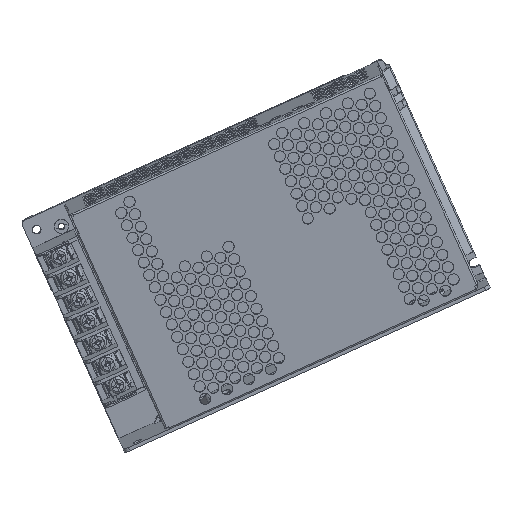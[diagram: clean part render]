
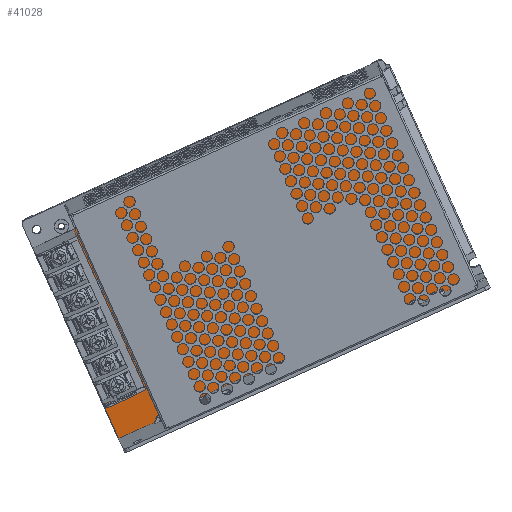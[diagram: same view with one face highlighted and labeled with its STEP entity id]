
A CAD part, top view. The second image highlights one B-rep face of the part: STEP entity #41028.
In plain terms, the highlighted planar face has unit normal (0.082, -0.181, 0.98) as drawn and (0, 0, 1) by its records, which use the part's own axes.
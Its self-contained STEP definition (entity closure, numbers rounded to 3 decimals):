
#40420=DIRECTION('',(1.,0.,0.));
#40421=VECTOR('',#40420,30.65);
#40422=CARTESIAN_POINT('',(0.5,0.,0.));
#40423=LINE('',#40422,#40421);
#40436=DIRECTION('',(1.,0.,0.));
#40437=VECTOR('',#40436,42.018);
#40438=CARTESIAN_POINT('',(33.641,1.5,0.));
#40439=LINE('',#40438,#40437);
#40452=DIRECTION('',(1.,0.,0.));
#40453=VECTOR('',#40452,56.841);
#40454=CARTESIAN_POINT('',(78.159,0.,0.));
#40455=LINE('',#40454,#40453);
#40472=DIRECTION('',(0.,1.,0.));
#40473=VECTOR('',#40472,1.);
#40474=CARTESIAN_POINT('',(135.5,0.5,0.));
#40475=LINE('',#40474,#40473);
#40476=DIRECTION('',(1.,0.,0.));
#40477=VECTOR('',#40476,6.);
#40478=CARTESIAN_POINT('',(135.5,1.5,0.));
#40479=LINE('',#40478,#40477);
#40480=DIRECTION('',(-0.707,-0.707,0.));
#40481=VECTOR('',#40480,0.707);
#40482=CARTESIAN_POINT('',(135.5,0.5,0.));
#40483=LINE('',#40482,#40481);
#40484=DIRECTION('',(-0.857,0.514,0.));
#40485=VECTOR('',#40484,2.915);
#40486=CARTESIAN_POINT('',(78.159,0.,0.));
#40487=LINE('',#40486,#40485);
#40488=DIRECTION('',(-0.857,-0.516,0.));
#40489=VECTOR('',#40488,2.908);
#40490=CARTESIAN_POINT('',(33.641,1.5,0.));
#40491=LINE('',#40490,#40489);
#40492=DIRECTION('',(-0.707,0.707,0.));
#40493=VECTOR('',#40492,0.707);
#40494=CARTESIAN_POINT('',(0.5,0.,0.));
#40495=LINE('',#40494,#40493);
#40496=DIRECTION('',(0.707,0.707,0.));
#40497=VECTOR('',#40496,0.707);
#40498=CARTESIAN_POINT('',(0.,57.2,0.));
#40499=LINE('',#40498,#40497);
#40500=DIRECTION('',(0.707,0.707,0.));
#40501=VECTOR('',#40500,0.707);
#40502=CARTESIAN_POINT('',(4.5,84.2,0.));
#40503=LINE('',#40502,#40501);
#40504=DIRECTION('',(0.707,0.707,0.));
#40505=VECTOR('',#40504,0.707);
#40506=CARTESIAN_POINT('',(28.9,89.9,0.));
#40507=LINE('',#40506,#40505);
#40508=DIRECTION('',(0.707,-0.707,0.));
#40509=VECTOR('',#40508,0.707);
#40510=CARTESIAN_POINT('',(144.4,90.4,0.));
#40511=LINE('',#40510,#40509);
#40512=DIRECTION('',(0.707,-0.707,0.));
#40513=VECTOR('',#40512,0.707);
#40514=CARTESIAN_POINT('',(152.5,88.5,0.));
#40515=LINE('',#40514,#40513);
#40516=DIRECTION('',(-0.707,-0.707,0.));
#40517=VECTOR('',#40516,0.707);
#40518=CARTESIAN_POINT('',(153.,0.5,0.));
#40519=LINE('',#40518,#40517);
#40520=DIRECTION('',(-0.707,0.707,0.));
#40521=VECTOR('',#40520,0.707);
#40522=CARTESIAN_POINT('',(142.,0.,0.));
#40523=LINE('',#40522,#40521);
#40528=DIRECTION('',(0.,-1.,0.));
#40529=VECTOR('',#40528,1.);
#40530=CARTESIAN_POINT('',(141.5,1.5,0.));
#40531=LINE('',#40530,#40529);
#40548=DIRECTION('',(1.,0.,0.));
#40549=VECTOR('',#40548,10.5);
#40550=CARTESIAN_POINT('',(142.,0.,0.));
#40551=LINE('',#40550,#40549);
#40564=DIRECTION('',(0.,1.,0.));
#40565=VECTOR('',#40564,87.5);
#40566=CARTESIAN_POINT('',(153.,0.5,0.));
#40567=LINE('',#40566,#40565);
#40580=DIRECTION('',(-1.,0.,0.));
#40581=VECTOR('',#40580,7.6);
#40582=CARTESIAN_POINT('',(152.5,88.5,0.));
#40583=LINE('',#40582,#40581);
#40592=DIRECTION('',(0.,1.,0.));
#40593=VECTOR('',#40592,1.4);
#40594=CARTESIAN_POINT('',(144.9,88.5,0.));
#40595=LINE('',#40594,#40593);
#40608=DIRECTION('',(-1.,0.,0.));
#40609=VECTOR('',#40608,115.);
#40610=CARTESIAN_POINT('',(144.4,90.4,0.));
#40611=LINE('',#40610,#40609);
#40624=DIRECTION('',(0.,-1.,0.));
#40625=VECTOR('',#40624,5.2);
#40626=CARTESIAN_POINT('',(28.9,89.9,0.));
#40627=LINE('',#40626,#40625);
#40636=DIRECTION('',(-1.,0.,0.));
#40637=VECTOR('',#40636,23.9);
#40638=CARTESIAN_POINT('',(28.9,84.7,0.));
#40639=LINE('',#40638,#40637);
#40652=DIRECTION('',(0.,-1.,0.));
#40653=VECTOR('',#40652,26.5);
#40654=CARTESIAN_POINT('',(4.5,84.2,0.));
#40655=LINE('',#40654,#40653);
#40664=DIRECTION('',(-1.,0.,0.));
#40665=VECTOR('',#40664,4.);
#40666=CARTESIAN_POINT('',(4.5,57.7,0.));
#40667=LINE('',#40666,#40665);
#40680=DIRECTION('',(0.,-1.,0.));
#40681=VECTOR('',#40680,56.7);
#40682=CARTESIAN_POINT('',(0.,57.2,0.));
#40683=LINE('',#40682,#40681);
#40733=CARTESIAN_POINT('',(0.5,0.,0.));
#40735=VERTEX_POINT('',#40733);
#40738=CARTESIAN_POINT('',(0.,0.5,0.));
#40739=VERTEX_POINT('',#40738);
#40741=CARTESIAN_POINT('',(31.15,0.,0.));
#40743=VERTEX_POINT('',#40741);
#40745=CARTESIAN_POINT('',(33.641,1.5,0.));
#40747=VERTEX_POINT('',#40745);
#40749=CARTESIAN_POINT('',(75.659,1.5,0.));
#40751=VERTEX_POINT('',#40749);
#40753=CARTESIAN_POINT('',(78.159,0.,0.));
#40755=VERTEX_POINT('',#40753);
#40757=CARTESIAN_POINT('',(135.,0.,0.));
#40759=VERTEX_POINT('',#40757);
#40761=CARTESIAN_POINT('',(135.5,0.5,0.));
#40763=VERTEX_POINT('',#40761);
#40765=CARTESIAN_POINT('',(141.5,0.5,0.));
#40767=VERTEX_POINT('',#40765);
#40769=CARTESIAN_POINT('',(142.,0.,0.));
#40771=VERTEX_POINT('',#40769);
#40773=CARTESIAN_POINT('',(152.5,0.,0.));
#40775=VERTEX_POINT('',#40773);
#40777=CARTESIAN_POINT('',(153.,0.5,0.));
#40779=VERTEX_POINT('',#40777);
#40781=CARTESIAN_POINT('',(153.,88.,0.));
#40783=VERTEX_POINT('',#40781);
#40785=CARTESIAN_POINT('',(152.5,88.5,0.));
#40787=VERTEX_POINT('',#40785);
#40789=CARTESIAN_POINT('',(144.9,88.5,0.));
#40791=VERTEX_POINT('',#40789);
#40793=CARTESIAN_POINT('',(144.9,89.9,0.));
#40795=VERTEX_POINT('',#40793);
#40797=CARTESIAN_POINT('',(144.4,90.4,0.));
#40799=VERTEX_POINT('',#40797);
#40801=CARTESIAN_POINT('',(29.4,90.4,0.));
#40803=VERTEX_POINT('',#40801);
#40805=CARTESIAN_POINT('',(28.9,89.9,0.));
#40807=VERTEX_POINT('',#40805);
#40809=CARTESIAN_POINT('',(28.9,84.7,0.));
#40811=VERTEX_POINT('',#40809);
#40813=CARTESIAN_POINT('',(5.,84.7,0.));
#40815=VERTEX_POINT('',#40813);
#40817=CARTESIAN_POINT('',(4.5,84.2,0.));
#40819=VERTEX_POINT('',#40817);
#40821=CARTESIAN_POINT('',(4.5,57.7,0.));
#40823=VERTEX_POINT('',#40821);
#40825=CARTESIAN_POINT('',(0.5,57.7,0.));
#40827=VERTEX_POINT('',#40825);
#40829=CARTESIAN_POINT('',(0.,57.2,0.));
#40831=VERTEX_POINT('',#40829);
#40832=CARTESIAN_POINT('',(135.5,1.5,0.));
#40834=VERTEX_POINT('',#40832);
#40836=CARTESIAN_POINT('',(141.5,1.5,0.));
#40838=VERTEX_POINT('',#40836);
#40976=CARTESIAN_POINT('',(0.5,0.,0.));
#40977=DIRECTION('',(0.,0.,1.));
#40978=DIRECTION('',(1.,0.,0.));
#40979=AXIS2_PLACEMENT_3D('',#40976,#40977,#40978);
#40980=PLANE('',#40979);
#40982=ORIENTED_EDGE('',*,*,#40981,.F.);
#40983=ORIENTED_EDGE('',*,*,#40967,.F.);
#40984=ORIENTED_EDGE('',*,*,#40956,.F.);
#40985=ORIENTED_EDGE('',*,*,#40941,.T.);
#40986=ORIENTED_EDGE('',*,*,#40926,.F.);
#40987=ORIENTED_EDGE('',*,*,#40911,.T.);
#40988=ORIENTED_EDGE('',*,*,#40896,.F.);
#40989=ORIENTED_EDGE('',*,*,#40881,.T.);
#40990=ORIENTED_EDGE('',*,*,#40866,.F.);
#40991=ORIENTED_EDGE('',*,*,#40851,.T.);
#40993=ORIENTED_EDGE('',*,*,#40992,.F.);
#40995=ORIENTED_EDGE('',*,*,#40994,.T.);
#40997=ORIENTED_EDGE('',*,*,#40996,.F.);
#40999=ORIENTED_EDGE('',*,*,#40998,.F.);
#41001=ORIENTED_EDGE('',*,*,#41000,.T.);
#41003=ORIENTED_EDGE('',*,*,#41002,.F.);
#41005=ORIENTED_EDGE('',*,*,#41004,.F.);
#41007=ORIENTED_EDGE('',*,*,#41006,.T.);
#41009=ORIENTED_EDGE('',*,*,#41008,.F.);
#41011=ORIENTED_EDGE('',*,*,#41010,.T.);
#41013=ORIENTED_EDGE('',*,*,#41012,.F.);
#41015=ORIENTED_EDGE('',*,*,#41014,.F.);
#41017=ORIENTED_EDGE('',*,*,#41016,.T.);
#41019=ORIENTED_EDGE('',*,*,#41018,.F.);
#41021=ORIENTED_EDGE('',*,*,#41020,.T.);
#41023=ORIENTED_EDGE('',*,*,#41022,.F.);
#41025=ORIENTED_EDGE('',*,*,#41024,.T.);
#41026=EDGE_LOOP('',(#40982,#40983,#40984,#40985,#40986,#40987,#40988,#40989,
#40990,#40991,#40993,#40995,#40997,#40999,#41001,#41003,#41005,#41007,#41009,
#41011,#41013,#41015,#41017,#41019,#41021,#41023,#41025));
#41027=FACE_OUTER_BOUND('',#41026,.F.);
#41028=ADVANCED_FACE('',(#41027),#40980,.T.);
#40851=EDGE_CURVE('',#40735,#40739,#40495,.T.);
#40866=EDGE_CURVE('',#40735,#40743,#40423,.T.);
#40881=EDGE_CURVE('',#40747,#40743,#40491,.T.);
#40896=EDGE_CURVE('',#40747,#40751,#40439,.T.);
#40911=EDGE_CURVE('',#40755,#40751,#40487,.T.);
#40926=EDGE_CURVE('',#40755,#40759,#40455,.T.);
#40941=EDGE_CURVE('',#40763,#40759,#40483,.T.);
#40956=EDGE_CURVE('',#40763,#40834,#40475,.T.);
#40967=EDGE_CURVE('',#40834,#40838,#40479,.T.);
#40981=EDGE_CURVE('',#40838,#40767,#40531,.T.);
#40992=EDGE_CURVE('',#40831,#40739,#40683,.T.);
#40994=EDGE_CURVE('',#40831,#40827,#40499,.T.);
#40996=EDGE_CURVE('',#40823,#40827,#40667,.T.);
#40998=EDGE_CURVE('',#40819,#40823,#40655,.T.);
#41000=EDGE_CURVE('',#40819,#40815,#40503,.T.);
#41002=EDGE_CURVE('',#40811,#40815,#40639,.T.);
#41004=EDGE_CURVE('',#40807,#40811,#40627,.T.);
#41006=EDGE_CURVE('',#40807,#40803,#40507,.T.);
#41008=EDGE_CURVE('',#40799,#40803,#40611,.T.);
#41010=EDGE_CURVE('',#40799,#40795,#40511,.T.);
#41012=EDGE_CURVE('',#40791,#40795,#40595,.T.);
#41014=EDGE_CURVE('',#40787,#40791,#40583,.T.);
#41016=EDGE_CURVE('',#40787,#40783,#40515,.T.);
#41018=EDGE_CURVE('',#40779,#40783,#40567,.T.);
#41020=EDGE_CURVE('',#40779,#40775,#40519,.T.);
#41022=EDGE_CURVE('',#40771,#40775,#40551,.T.);
#41024=EDGE_CURVE('',#40771,#40767,#40523,.T.);
